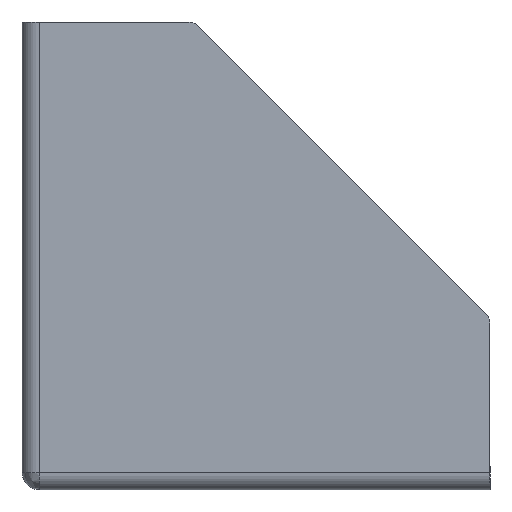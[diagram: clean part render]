
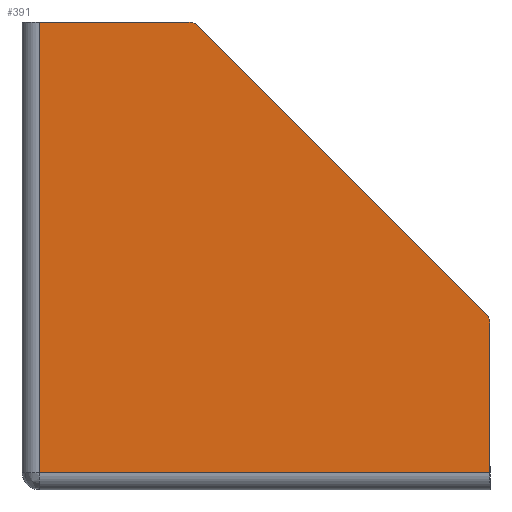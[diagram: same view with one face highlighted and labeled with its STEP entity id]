
A CAD part, front view. The second image highlights one B-rep face of the part: STEP entity #391.
In plain terms, the highlighted planar face has unit normal (0, -1, 0).
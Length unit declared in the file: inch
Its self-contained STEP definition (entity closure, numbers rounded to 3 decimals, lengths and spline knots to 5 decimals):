
#23 = LINE ( 'NONE', #151, #333 ) ;
#28 = EDGE_CURVE ( 'NONE', #431, #464, #473, .T. ) ;
#30 = VECTOR ( 'NONE', #234, 39.37008 ) ;
#35 = VERTEX_POINT ( 'NONE', #737 ) ;
#49 = CARTESIAN_POINT ( 'NONE',  ( 0., 0., 0.063 ) ) ;
#64 = FACE_OUTER_BOUND ( 'NONE', #868, .T. ) ;
#65 = ORIENTED_EDGE ( 'NONE', *, *, #439, .F. ) ;
#73 = DIRECTION ( 'NONE',  ( -1., 0., 0. ) ) ;
#90 = CARTESIAN_POINT ( 'NONE',  ( 3.25, 0., -2.11878 ) ) ;
#111 = EDGE_CURVE ( 'NONE', #309, #301, #567, .T. ) ;
#139 = CARTESIAN_POINT ( 'NONE',  ( 3.375, 0., -2.11878 ) ) ;
#145 = CARTESIAN_POINT ( 'NONE',  ( 0., 0., -3.312 ) ) ;
#151 = CARTESIAN_POINT ( 'NONE',  ( 0.1255, 0., -3.312 ) ) ;
#156 = CARTESIAN_POINT ( 'NONE',  ( 1.19322, 0., -0.062 ) ) ;
#164 = DIRECTION ( 'NONE',  ( 0., 0., 1. ) ) ;
#215 = PLANE ( 'NONE',  #481 ) ;
#216 = LINE ( 'NONE', #233, #30 ) ;
#233 = CARTESIAN_POINT ( 'NONE',  ( 1.28161, 0., 0.02639 ) ) ;
#234 = DIRECTION ( 'NONE',  ( 0.707, 0., -0.707 ) ) ;
#282 = VECTOR ( 'NONE', #653, 39.37008 ) ;
#287 = DIRECTION ( 'NONE',  ( 0., 0., 1. ) ) ;
#301 = VERTEX_POINT ( 'NONE', #553 ) ;
#307 = VERTEX_POINT ( 'NONE', #755 ) ;
#309 = VERTEX_POINT ( 'NONE', #824 ) ;
#333 = VECTOR ( 'NONE', #760, 39.37008 ) ;
#336 = VERTEX_POINT ( 'NONE', #139 ) ;
#338 = ORIENTED_EDGE ( 'NONE', *, *, #111, .F. ) ;
#370 = CARTESIAN_POINT ( 'NONE',  ( 3.375, 0., -3.1865 ) ) ;
#391 = ADVANCED_FACE ( 'NONE', ( #64 ), #215, .F. ) ;
#404 = VECTOR ( 'NONE', #541, 39.37008 ) ;
#407 = VECTOR ( 'NONE', #796, 39.37008 ) ;
#431 = VERTEX_POINT ( 'NONE', #370 ) ;
#439 = EDGE_CURVE ( 'NONE', #301, #307, #731, .T. ) ;
#454 = CARTESIAN_POINT ( 'NONE',  ( 0., 0., -3.1865 ) ) ;
#464 = VERTEX_POINT ( 'NONE', #572 ) ;
#467 = LINE ( 'NONE', #726, #407 ) ;
#470 = EDGE_CURVE ( 'NONE', #464, #309, #23, .T. ) ;
#473 = LINE ( 'NONE', #454, #282 ) ;
#481 = AXIS2_PLACEMENT_3D ( 'NONE', #145, #697, #287 ) ;
#519 = CIRCLE ( 'NONE', #843, 0.125 ) ;
#531 = AXIS2_PLACEMENT_3D ( 'NONE', #156, #633, #73 ) ;
#541 = DIRECTION ( 'NONE',  ( 1., 0., 0. ) ) ;
#553 = CARTESIAN_POINT ( 'NONE',  ( 1.19322, 0., 0.063 ) ) ;
#557 = EDGE_CURVE ( 'NONE', #35, #336, #519, .T. ) ;
#567 = LINE ( 'NONE', #49, #404 ) ;
#572 = CARTESIAN_POINT ( 'NONE',  ( 0.1255, 0., -3.1865 ) ) ;
#575 = DIRECTION ( 'NONE',  ( 0., 1., 0. ) ) ;
#580 = ORIENTED_EDGE ( 'NONE', *, *, #470, .F. ) ;
#604 = ORIENTED_EDGE ( 'NONE', *, *, #557, .F. ) ;
#625 = ORIENTED_EDGE ( 'NONE', *, *, #28, .F. ) ;
#633 = DIRECTION ( 'NONE',  ( 0., 1., 0. ) ) ;
#650 = EDGE_CURVE ( 'NONE', #307, #35, #216, .T. ) ;
#653 = DIRECTION ( 'NONE',  ( -1., 0., 0. ) ) ;
#697 = DIRECTION ( 'NONE',  ( 0., 1., 0. ) ) ;
#698 = EDGE_CURVE ( 'NONE', #431, #336, #467, .T. ) ;
#714 = ORIENTED_EDGE ( 'NONE', *, *, #698, .T. ) ;
#726 = CARTESIAN_POINT ( 'NONE',  ( 3.375, 0., -3.312 ) ) ;
#731 = CIRCLE ( 'NONE', #531, 0.125 ) ;
#737 = CARTESIAN_POINT ( 'NONE',  ( 3.33839, 0., -2.03039 ) ) ;
#755 = CARTESIAN_POINT ( 'NONE',  ( 1.28161, 0., 0.02639 ) ) ;
#760 = DIRECTION ( 'NONE',  ( 0., 0., 1. ) ) ;
#796 = DIRECTION ( 'NONE',  ( 0., 0., 1. ) ) ;
#824 = CARTESIAN_POINT ( 'NONE',  ( 0.1255, 0., 0.063 ) ) ;
#843 = AXIS2_PLACEMENT_3D ( 'NONE', #90, #575, #164 ) ;
#868 = EDGE_LOOP ( 'NONE', ( #625, #714, #604, #877, #65, #338, #580 ) ) ;
#877 = ORIENTED_EDGE ( 'NONE', *, *, #650, .F. ) ;
